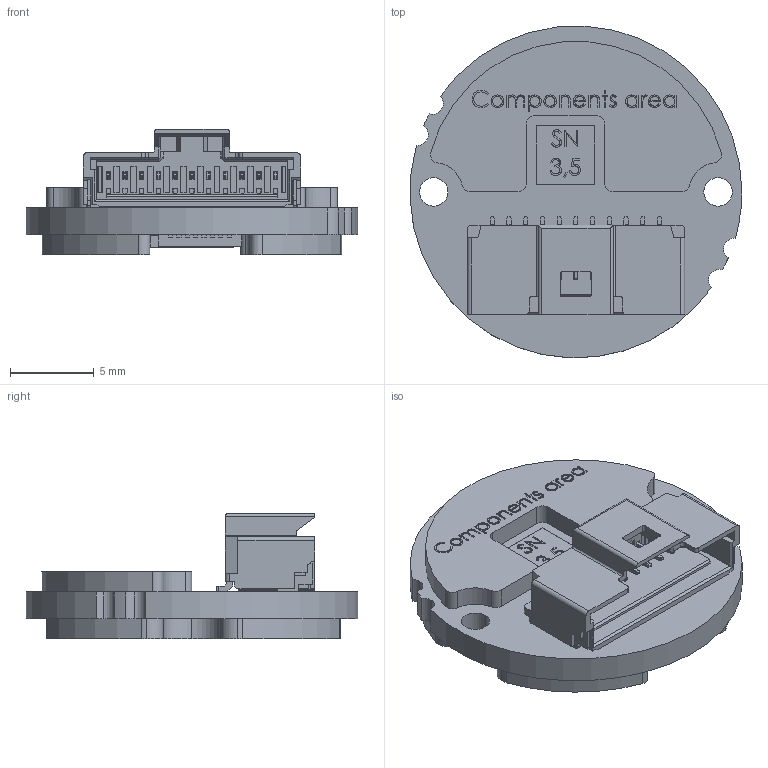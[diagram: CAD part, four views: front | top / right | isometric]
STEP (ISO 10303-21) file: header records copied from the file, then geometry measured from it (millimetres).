
FILE_DESCRIPTION (( 'STEP AP214' ), '1' );
FILE_NAME ('RTB20Ux.STEP', '2025-11-21T06:05:30', ( '' ), ( '' ), 'SwSTEP 2.0', 'SolidWorks 2024', '' );
FILE_SCHEMA (( 'AUTOMOTIVE_DESIGN' ));
Length unit declared in the file: millimetre
Products named in the file (1): RTB20Ux
Bounding box: 19.84 x 19.83 x 7.5 mm (x, y, z)
Volume: 939.5 mm3; surface area: 1505.7 mm2
Topology: 1 solids, 9 shells, 2450 faces, 6828 edges, 4448 vertices
Faces by surface type: plane 1611, bspline 449, cylinder 298, cone 92
Entity records: 104535 total; most frequent: CARTESIAN_POINT 39140, ORIENTED_EDGE 13654, DIRECTION 10394, EDGE_CURVE 6827, LINE 5022, VECTOR 5022, VERTEX_POINT 4448, AXIS2_PLACEMENT_3D 2686
